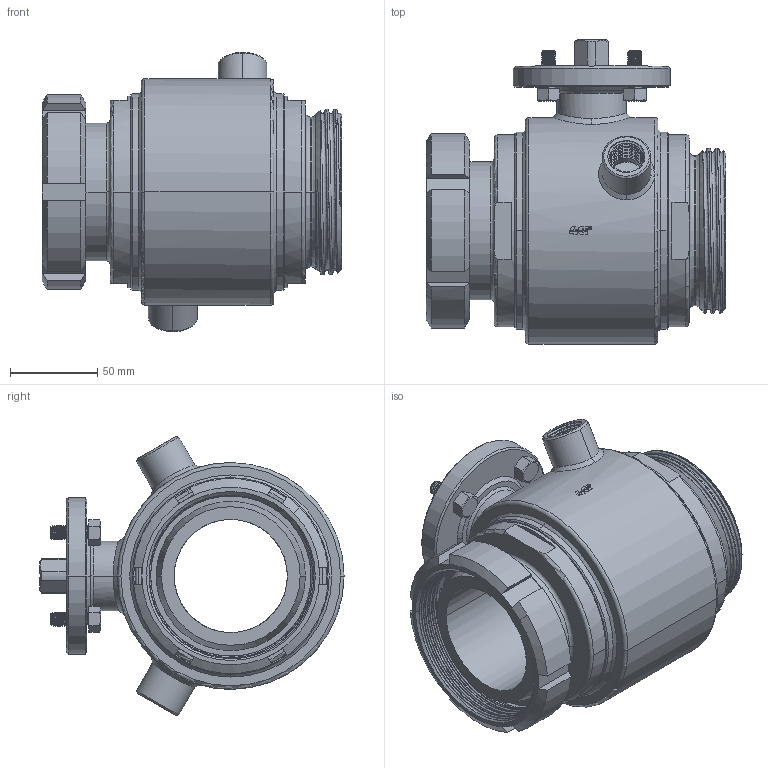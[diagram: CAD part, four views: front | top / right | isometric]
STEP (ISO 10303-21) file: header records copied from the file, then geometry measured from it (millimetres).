
FILE_DESCRIPTION((''),'2;1');
FILE_NAME('103026C64410_SW0001','2026-01-20T14:43:02',('tecnico2'),('CDM Tecnoconsulting'),'CREO PARAMETRIC BY PTC INC, 2024063','CREO PARAMETRIC BY PTC INC, 2024063','');
FILE_SCHEMA(('CONFIG_CONTROL_DESIGN','SHAPE_APPEARANCE_LAYERS_GROUPS'));
Products named in the file (1): 103026C64410_SW0001
Bounding box: 172 x 174.5 x 160.22 mm (x, y, z)
Volume: 1013826.8 mm3; surface area: 291015.8 mm2
Topology: 5 solids, 5 shells, 1358 faces, 3615 edges, 2334 vertices
Faces by surface type: plane 454, cylinder 359, extrusion 217, cone 137, bspline 135, torus 52, sphere 4
Entity records: 148845 total; most frequent: CARTESIAN_POINT 106527, ORIENTED_EDGE 7214, DIRECTION 4886, PRESENTATION_STYLE_ASSIGNMENT 3694, STYLED_ITEM 3612, CURVE_STYLE 3607, EDGE_CURVE 3607, VERTEX_POINT 2334
